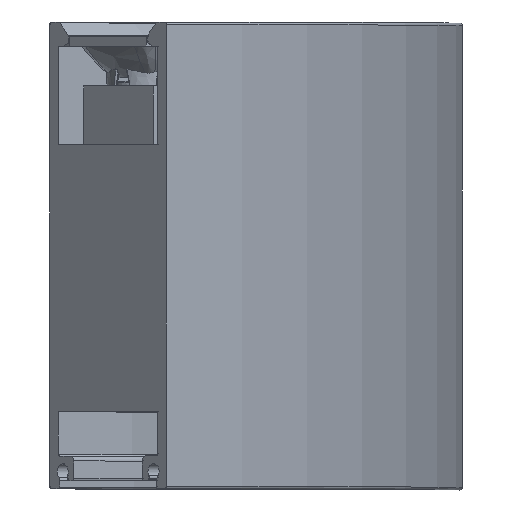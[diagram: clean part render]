
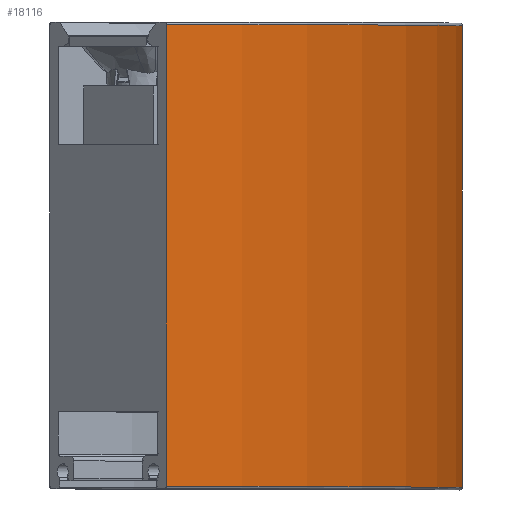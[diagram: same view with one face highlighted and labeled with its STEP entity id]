
A CAD part, top view. The second image highlights one B-rep face of the part: STEP entity #18116.
In plain terms, the highlighted cylindrical face has radius 205.8 mm (diameter 411.6 mm), a partial arc.
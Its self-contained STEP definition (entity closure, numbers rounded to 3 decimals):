
#2320=CYLINDRICAL_SURFACE('',#19361,205.8);
#2454=LINE('',#25233,#3050);
#2455=LINE('',#25235,#3051);
#3050=VECTOR('',#21240,10.);
#3051=VECTOR('',#21241,10.);
#3931=FACE_OUTER_BOUND('',#5031,.T.);
#5031=EDGE_LOOP('',(#12172,#12173,#12174,#12175));
#6251=CIRCLE('',#19360,205.8);
#6252=CIRCLE('',#19362,205.8);
#7142=VERTEX_POINT('',#25226);
#7143=VERTEX_POINT('',#25228);
#7144=VERTEX_POINT('',#25232);
#7145=VERTEX_POINT('',#25234);
#9121=EDGE_CURVE('',#7142,#7143,#6251,.T.);
#9122=EDGE_CURVE('',#7144,#7142,#2454,.T.);
#9123=EDGE_CURVE('',#7145,#7143,#2455,.T.);
#9124=EDGE_CURVE('',#7144,#7145,#6252,.T.);
#12172=ORIENTED_EDGE('',*,*,#9122,.T.);
#12173=ORIENTED_EDGE('',*,*,#9121,.T.);
#12174=ORIENTED_EDGE('',*,*,#9123,.F.);
#12175=ORIENTED_EDGE('',*,*,#9124,.F.);
#18116=ADVANCED_FACE('',(#3931),#2320,.T.);
#19360=AXIS2_PLACEMENT_3D('',#25230,#21236,#21237);
#19361=AXIS2_PLACEMENT_3D('',#25231,#21238,#21239);
#19362=AXIS2_PLACEMENT_3D('',#25236,#21242,#21243);
#21236=DIRECTION('center_axis',(0.,-1.,0.));
#21237=DIRECTION('ref_axis',(1.,0.,0.));
#21238=DIRECTION('center_axis',(0.,-1.,0.));
#21239=DIRECTION('ref_axis',(1.,0.,0.));
#21240=DIRECTION('',(0.,1.,0.));
#21241=DIRECTION('',(0.,1.,0.));
#21242=DIRECTION('center_axis',(0.,-1.,0.));
#21243=DIRECTION('ref_axis',(1.,0.,0.));
#25226=CARTESIAN_POINT('',(14.783,60.161,0.));
#25228=CARTESIAN_POINT('',(-45.495,60.161,145.523));
#25230=CARTESIAN_POINT('Origin',(-191.017,60.161,0.));
#25231=CARTESIAN_POINT('Origin',(-191.017,13.111,0.));
#25232=CARTESIAN_POINT('',(14.783,-33.939,0.));
#25233=CARTESIAN_POINT('',(14.783,-33.939,0.));
#25234=CARTESIAN_POINT('',(-45.495,-33.939,145.523));
#25235=CARTESIAN_POINT('',(-45.495,-33.939,145.523));
#25236=CARTESIAN_POINT('Origin',(-191.017,-33.939,0.));
